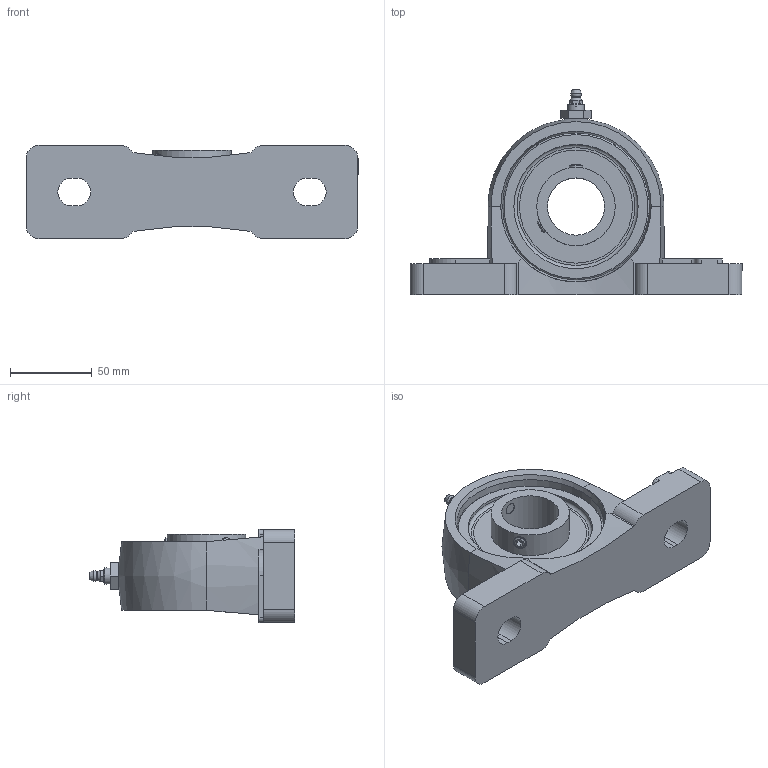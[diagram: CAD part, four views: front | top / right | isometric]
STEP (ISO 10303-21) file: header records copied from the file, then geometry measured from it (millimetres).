
FILE_DESCRIPTION((''),'2;1');
FILE_NAME('\\Ts-tgl068\J-Cad-D-BASE\00.3DCADデータ作成フォルダ\01.ピロー形\UCEP200\UCEP207.stp','2014-04-18T09:40:40',('btec_1106_2'),(''),'Autodesk Inventor 2012','Autodesk Inventor 2012','');
FILE_SCHEMA(('AUTOMOTIVE_DESIGN { 1 0 10303 214 1 1 1 1 }'));
Length unit declared in the file: millimetre
Products named in the file (7): UCEP200; EP207; AU110-1; EC207; GU1; シリーズUC [番手=207 ul]; M10X1
Assembly tree (6 placements, depth 2):
  UCEP200
    EP207
    AU110-1
    EC207
    GU1
    シリーズUC [番手=207 ul]
    M10X1
Bounding box: 203 x 125.89 x 57 mm (x, y, z)
Volume: 418033.8 mm3; surface area: 92644.3 mm2
Topology: 6 solids, 6 shells, 175 faces, 427 edges, 272 vertices
Faces by surface type: plane 91, cylinder 50, cone 21, torus 8, sphere 4, bspline 1
Full cylindrical faces by diameter (mm): 2 x1, 5 x1, 5.359 x1, 6.35 x1, 8 x2, 8.376 x2, 10 x1, 35 x1, 48 x2, 76 x2, 90 x2
Entity records: 5391 total; most frequent: CARTESIAN_POINT 1218, DIRECTION 846, ORIENTED_EDGE 752, EDGE_CURVE 376, AXIS2_PLACEMENT_3D 329, VERTEX_POINT 258, EDGE_LOOP 236, VECTOR 188
